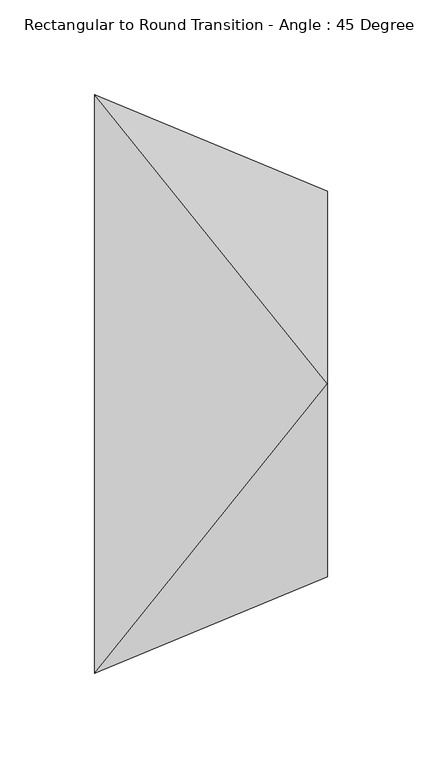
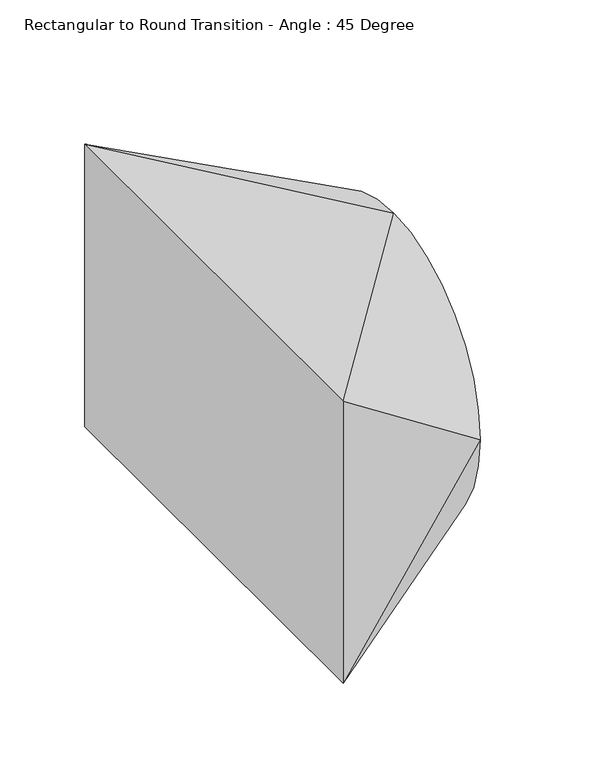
"""IFC4 building model written with IfcOpenShell, lengths in millimetres: duct fitting geometry, Rectangular to Round Transition - Angle : 45 Degree."""

from ifc_helpers import new_model, si_unit, frame, origin, place, context, project, spatial, circle_curve, source, transform, mapped, element, save
from ifc_brep_helpers import plane_surface, spline_surface, advanced_brep


def rectangular_to_round_transition_angle_45_degree_f8b25ec9(model_context):
    return source(origin(), model_context, "Body", "AdvancedBrep", [
        advanced_brep(
        [(122.642049, 0.0, 101.6), (122.642049, -101.6, 0.0), (122.642049, 0.0, -101.6), (122.642049, 101.6, 0.0), (0.0, -152.4, 101.6), (0.0, 152.4, 101.6), (0.0, 152.4, -101.6), (0.0, -152.4, -101.6)],
        [
            (0, 1, circle_curve(frame((122.642049, 0.0, 0.0), z_axis=(1.0, 0.0, 0.0), x_axis=(0.0, 1.0, 0.0)), 101.6)),
            (1, 2, circle_curve(frame((122.642049, 0.0, 0.0), z_axis=(1.0, 0.0, 0.0), x_axis=(0.0, 1.0, 0.0)), 101.6)),
            (2, 3, circle_curve(frame((122.642049, 0.0, 0.0), z_axis=(1.0, 0.0, 0.0), x_axis=(0.0, 1.0, 0.0)), 101.6)),
            (3, 0, circle_curve(frame((122.642049, 0.0, 0.0), z_axis=(1.0, 0.0, 0.0), x_axis=(0.0, 1.0, 0.0)), 101.6)),
            (4, 5),
            (5, 6),
            (6, 7),
            (7, 4),
            (0, 4),
            (4, 1),
            (7, 1),
            (7, 2),
            (6, 2),
            (6, 3),
            (5, 3),
            (5, 0),
        ],
        [
            plane_surface(frame((122.642049, 0.0, 0.0), z_axis=(1.0, 0.0, 0.0), x_axis=(0.0, 0.0, -1.0))),
            plane_surface(frame((0.0, 0.0, 0.0), z_axis=(-1.0, 0.0, 0.0), x_axis=(0.0, 0.0, -1.0))),
            spline_surface(2, 1, [[(0.0, -152.4, 101.6), (122.642049, 0.0, 101.6)], [(0.0, -152.4, 101.6), (122.642049, -101.6, 101.6)], [(0.0, -152.4, 101.6), (122.642049, -101.6, 0.0)]], [3, 3], [2, 2], [0.0, 1.0], [0.0, 1.0], weights=[[1.0, 1.0], [0.7071067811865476, 0.7071067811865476], [1.0, 1.0]]),
            plane_surface(frame((0.0, -152.4, 0.0), z_axis=(0.3826834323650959, -0.9238795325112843, 0.0), x_axis=(0.0, 0.0, -1.0))),
            spline_surface(2, 1, [[(0.0, -152.4, -101.6), (122.642049, -101.6, 0.0)], [(0.0, -152.4, -101.6), (122.642049, -101.6, -101.6)], [(0.0, -152.4, -101.6), (122.642049, 0.0, -101.6)]], [3, 3], [2, 2], [0.0, 1.0], [0.0, 1.0], weights=[[1.0, 1.0], [0.7071067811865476, 0.7071067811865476], [1.0, 1.0]]),
            plane_surface(frame((0.0, 0.0, -101.6), z_axis=(0.0, 0.0, -1.0), x_axis=(0.0, 1.0, 0.0))),
            spline_surface(2, 1, [[(0.0, 152.4, -101.6), (122.642049, 0.0, -101.6)], [(0.0, 152.4, -101.6), (122.642049, 101.6, -101.6)], [(0.0, 152.4, -101.6), (122.642049, 101.6, 0.0)]], [3, 3], [2, 2], [0.0, 1.0], [0.0, 1.0], weights=[[1.0, 1.0], [0.7071067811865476, 0.7071067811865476], [1.0, 1.0]]),
            plane_surface(frame((0.0, 152.4, 0.0), z_axis=(0.3826834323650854, 0.9238795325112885, 0.0), x_axis=(0.0, 0.0, 1.0))),
            spline_surface(2, 1, [[(0.0, 152.4, 101.6), (122.642049, 101.6, 0.0)], [(0.0, 152.4, 101.6), (122.642049, 101.6, 101.6)], [(0.0, 152.4, 101.6), (122.642049, 0.0, 101.6)]], [3, 3], [2, 2], [0.0, 1.0], [0.0, 1.0], weights=[[1.0, 1.0], [0.7071067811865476, 0.7071067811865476], [1.0, 1.0]]),
            plane_surface(frame((0.0, 0.0, 101.6), z_axis=(0.0, 0.0, 1.0), x_axis=(0.0, -1.0, 0.0))),
        ],
        [
            (0, [[1, 2, 3, 4]]),
            (1, [[5, 6, 7, 8]]),
            (2, [[-1, 9, 10]]),
            (3, [[-8, 11, -10]]),
            (4, [[-2, -11, 12]]),
            (5, [[-7, 13, -12]]),
            (6, [[-3, -13, 14]]),
            (7, [[-6, 15, -14]]),
            (8, [[-4, -15, 16]]),
            (9, [[-5, -9, -16]]),
        ],
    ),
    ])


if __name__ == "__main__":
    model = new_model("IFC4")
    model_context = context("Model", 3, world=origin())
    ifc_project = project(units=[si_unit("LENGTHUNIT", "METRE", prefix="MILLI")], contexts=[model_context])
    site = spatial("IfcSite", under=ifc_project)
    building = spatial("IfcBuilding", under=site)
    placement = place(None, origin())
    rectangular_to_round_transition_angle_45_degree_shape = rectangular_to_round_transition_angle_45_degree_f8b25ec9(model_context)
    element("IfcDuctFitting", 1, ObjectType="Rectangular to Round Transition - Angle : 45 Degree", at=placement, inside=building, context=model_context, shape_type="MappedRepresentation", body=[
        mapped(rectangular_to_round_transition_angle_45_degree_shape, transform((0.0, 0.0, 0.0), x_axis=(1.0, 0.0, 0.0), y_axis=(0.0, 1.0, 0.0), z_axis=(0.0, 0.0, 1.0))),
    ])
    save(model, "model.ifc")
